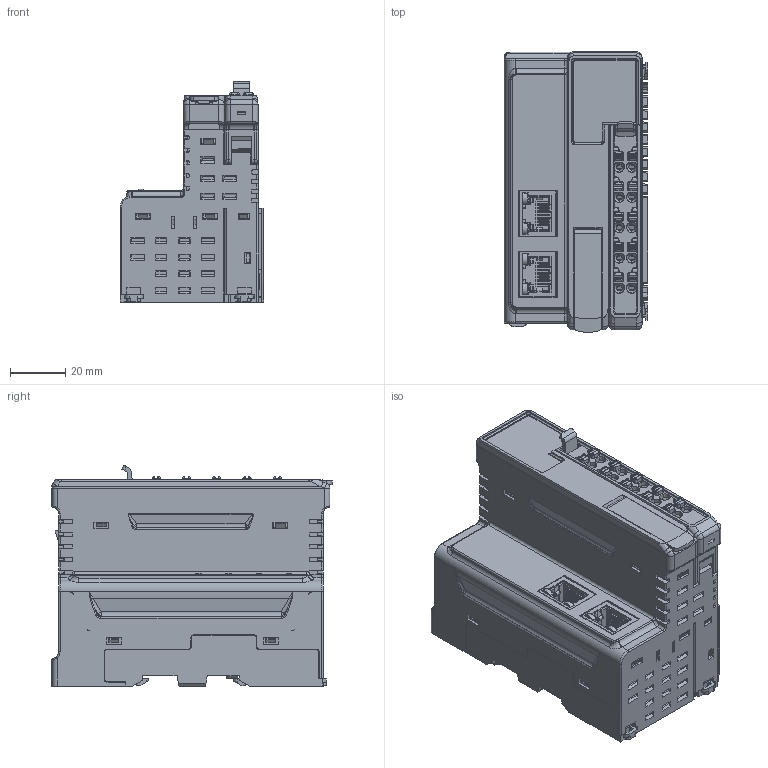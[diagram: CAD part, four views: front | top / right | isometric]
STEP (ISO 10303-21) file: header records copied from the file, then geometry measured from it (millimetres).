
FILE_DESCRIPTION((''),'2;1');
FILE_NAME('COUPLER-MODULE_SW0006','2026-02-04T13:45:59',('USER'),(''),'CREO PARAMETRIC BY PTC INC, 2024153','CREO PARAMETRIC BY PTC INC, 2024153','');
FILE_SCHEMA(('AUTOMOTIVE_DESIGN { 1 0 10303 214 1 1 1 1 }'));
Products named in the file (1): COUPLER-MODULE_SW0006
Bounding box: 52.15 x 101.84 x 80.34 mm (x, y, z)
Volume: 265253.6 mm3; surface area: 76986 mm2
Topology: 1 solids, 1 shells, 5480 faces, 15435 edges, 9963 vertices
Faces by surface type: plane 4053, cylinder 841, bspline 261, cone 240, torus 73, sphere 12
Entity records: 241099 total; most frequent: CARTESIAN_POINT 69279, ORIENTED_EDGE 30850, DIRECTION 25995, EDGE_CURVE 15425, VECTOR 12195, LINE 12195, VERTEX_POINT 9958, AXIS2_PLACEMENT_3D 6900
